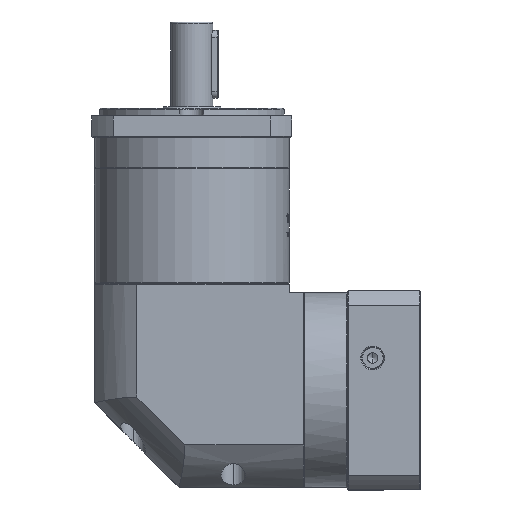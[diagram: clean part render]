
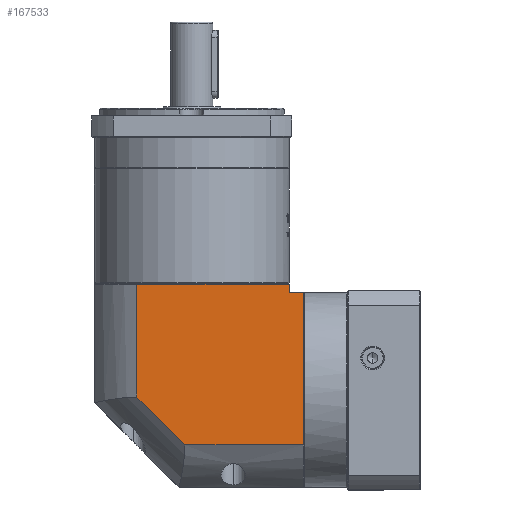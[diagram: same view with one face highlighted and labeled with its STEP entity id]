
A CAD part, left-side view. The second image highlights one B-rep face of the part: STEP entity #167533.
In plain terms, the highlighted planar face has unit normal (-1, 0, 0).
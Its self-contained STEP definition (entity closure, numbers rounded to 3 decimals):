
#2275 = CARTESIAN_POINT ( 'NONE',  ( -248.495, -105.321, 111.38 ) ) ;
#2486 = EDGE_CURVE ( 'NONE', #9072, #55786, #48994, .T. ) ;
#3801 = CARTESIAN_POINT ( 'NONE',  ( -248.495, 18.079, 111.38 ) ) ;
#5785 = EDGE_CURVE ( 'NONE', #16702, #21988, #61619, .T. ) ;
#9072 = VERTEX_POINT ( 'NONE', #30036 ) ;
#14769 = DIRECTION ( 'NONE',  ( 1., 0., 0. ) ) ;
#15801 = AXIS2_PLACEMENT_3D ( 'NONE', #3801, #14769, #119531 ) ;
#16403 = ORIENTED_EDGE ( 'NONE', *, *, #65322, .F. ) ;
#16501 = DIRECTION ( 'NONE',  ( 0., 0., 1. ) ) ;
#16702 = VERTEX_POINT ( 'NONE', #156646 ) ;
#17046 = ORIENTED_EDGE ( 'NONE', *, *, #2486, .F. ) ;
#19082 = DIRECTION ( 'NONE',  ( 0., 1., 0. ) ) ;
#21988 = VERTEX_POINT ( 'NONE', #138068 ) ;
#25911 = EDGE_CURVE ( 'NONE', #21988, #9072, #149047, .T. ) ;
#30036 = CARTESIAN_POINT ( 'NONE',  ( -248.495, -35.36, 9.98 ) ) ;
#42511 = ORIENTED_EDGE ( 'NONE', *, *, #25911, .F. ) ;
#45650 = EDGE_LOOP ( 'NONE', ( #16403, #17046, #42511, #98876, #103396, #162393, #160946 ) ) ;
#46609 = EDGE_CURVE ( 'NONE', #166905, #156172, #169709, .T. ) ;
#48137 = VECTOR ( 'NONE', #19082, 1000. ) ;
#48994 = LINE ( 'NONE', #128162, #126847 ) ;
#55786 = VERTEX_POINT ( 'NONE', #124903 ) ;
#56607 = VECTOR ( 'NONE', #101392, 1000. ) ;
#56858 = CARTESIAN_POINT ( 'NONE',  ( -248.495, -96.921, 99.88 ) ) ;
#61619 = LINE ( 'NONE', #2275, #168009 ) ;
#65322 = EDGE_CURVE ( 'NONE', #55786, #153943, #76215, .T. ) ;
#70099 = VECTOR ( 'NONE', #73067, 1000. ) ;
#73067 = DIRECTION ( 'NONE',  ( 0., 0., 1. ) ) ;
#76215 = LINE ( 'NONE', #150254, #70099 ) ;
#78318 = CARTESIAN_POINT ( 'NONE',  ( -248.495, -7.022, 104.88 ) ) ;
#83101 = LINE ( 'NONE', #56858, #48137 ) ;
#94550 = DIRECTION ( 'NONE',  ( 0., 0., -1. ) ) ;
#94898 = DIRECTION ( 'NONE',  ( 0., 1., 0. ) ) ;
#98876 = ORIENTED_EDGE ( 'NONE', *, *, #5785, .F. ) ;
#100537 = CARTESIAN_POINT ( 'NONE',  ( -248.495, -96.921, 99.88 ) ) ;
#101392 = DIRECTION ( 'NONE',  ( 0., -1., 0. ) ) ;
#103396 = ORIENTED_EDGE ( 'NONE', *, *, #158263, .T. ) ;
#103605 = DIRECTION ( 'NONE',  ( 0., 0.707, 0.707 ) ) ;
#106296 = CARTESIAN_POINT ( 'NONE',  ( -248.495, -96.921, 104.88 ) ) ;
#106483 = PLANE ( 'NONE',  #15801 ) ;
#110162 = VECTOR ( 'NONE', #94898, 1000. ) ;
#119531 = DIRECTION ( 'NONE',  ( 0., 1., 0. ) ) ;
#124903 = CARTESIAN_POINT ( 'NONE',  ( -248.495, -7.022, 38.319 ) ) ;
#126847 = VECTOR ( 'NONE', #103605, 1000. ) ;
#128162 = CARTESIAN_POINT ( 'NONE',  ( -248.495, -35.36, 9.98 ) ) ;
#130297 = FACE_OUTER_BOUND ( 'NONE', #45650, .T. ) ;
#130403 = LINE ( 'NONE', #167646, #56607 ) ;
#138068 = CARTESIAN_POINT ( 'NONE',  ( -248.495, -105.321, 9.98 ) ) ;
#146907 = CARTESIAN_POINT ( 'NONE',  ( -248.495, 18.079, 9.98 ) ) ;
#149047 = LINE ( 'NONE', #146907, #110162 ) ;
#150254 = CARTESIAN_POINT ( 'NONE',  ( -248.495, -7.022, 111.38 ) ) ;
#153279 = VECTOR ( 'NONE', #16501, 1000. ) ;
#153943 = VERTEX_POINT ( 'NONE', #78318 ) ;
#156172 = VERTEX_POINT ( 'NONE', #106296 ) ;
#156646 = CARTESIAN_POINT ( 'NONE',  ( -248.495, -105.321, 99.88 ) ) ;
#158263 = EDGE_CURVE ( 'NONE', #16702, #166905, #83101, .T. ) ;
#160227 = CARTESIAN_POINT ( 'NONE',  ( -248.495, -96.921, -15.12 ) ) ;
#160946 = ORIENTED_EDGE ( 'NONE', *, *, #168691, .F. ) ;
#162393 = ORIENTED_EDGE ( 'NONE', *, *, #46609, .T. ) ;
#166905 = VERTEX_POINT ( 'NONE', #100537 ) ;
#167533 = ADVANCED_FACE ( 'NONE', ( #130297 ), #106483, .F. ) ;
#167646 = CARTESIAN_POINT ( 'NONE',  ( -248.495, 18.079, 104.88 ) ) ;
#168009 = VECTOR ( 'NONE', #94550, 1000. ) ;
#168691 = EDGE_CURVE ( 'NONE', #153943, #156172, #130403, .T. ) ;
#169709 = LINE ( 'NONE', #160227, #153279 ) ;
